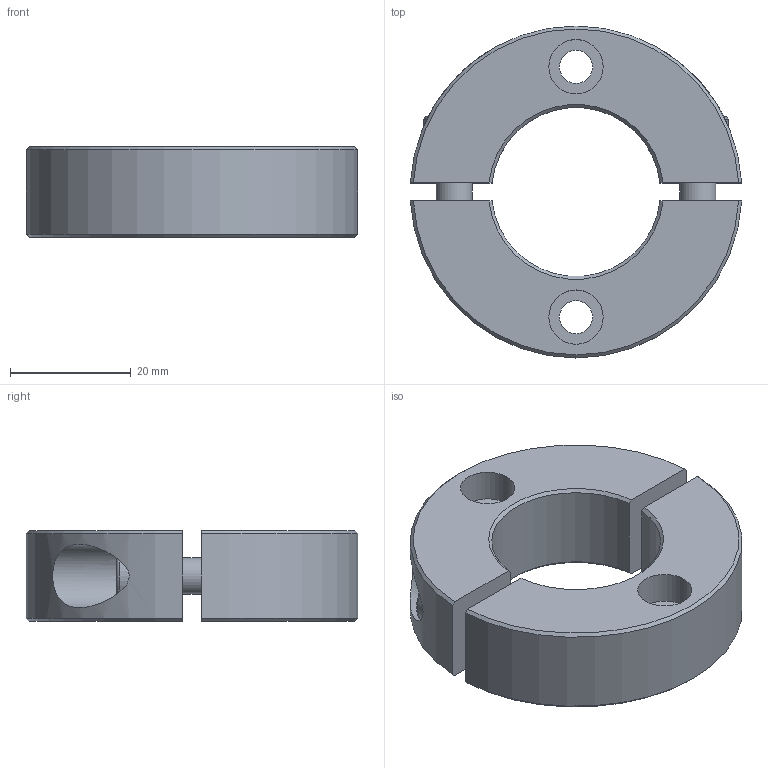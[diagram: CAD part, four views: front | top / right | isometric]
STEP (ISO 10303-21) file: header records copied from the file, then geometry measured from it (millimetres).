
FILE_DESCRIPTION( ( 'STEP AP203' ), '1' );
FILE_NAME( 'C:/Temp/Ganter_Step_05_03_2020/data/3_2/gn7072_2/Split Stainless Steel-Set collar GN 7072.2-55-B28-NI-B.stp', '2020-03-13T05:41:00', ( 'License CC BY-ND 4.0' ), ( 'CADENAS' ), ' ', 'PARTsolutions', ' ' );
FILE_SCHEMA( ( 'CONFIG_CONTROL_DESIGN' ) );
Length unit declared in the file: millimetre
Products named in the file (1): _Split Stainless Steel-Set collar GN 7072.2-55-B28-NI-B
Bounding box: 54.92 x 55 x 15 mm (x, y, z)
Volume: 22840.2 mm3; surface area: 9832.3 mm2
Topology: 1 solids, 1 shells, 56 faces, 131 edges, 89 vertices
Faces by surface type: plane 30, cylinder 16, cone 8, torus 2
Full cylindrical faces by diameter (mm): 5.5 x2, 6 x2, 6.4 x2, 9 x2, 10 x2, 10.5 x2
Entity records: 1712 total; most frequent: CARTESIAN_POINT 459, DIRECTION 246, ORIENTED_EDGE 220, EDGE_CURVE 110, AXIS2_PLACEMENT_3D 97, EDGE_LOOP 88, VERTEX_POINT 82, FACE_OUTER_BOUND 70
